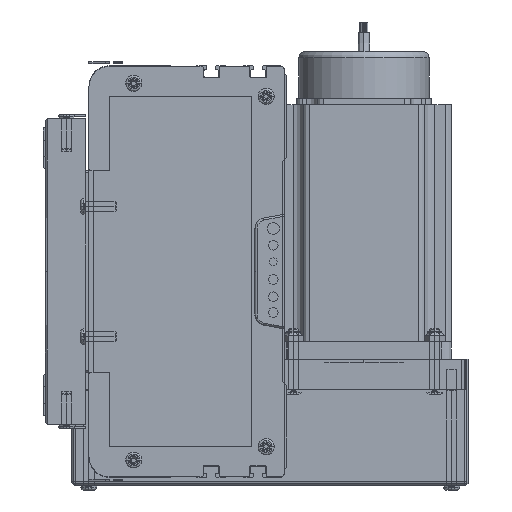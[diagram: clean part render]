
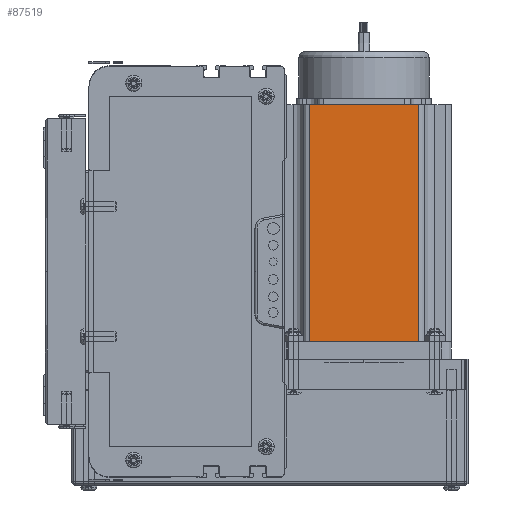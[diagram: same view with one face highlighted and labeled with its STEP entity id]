
A CAD part, left-side view. The second image highlights one B-rep face of the part: STEP entity #87519.
In plain terms, the highlighted planar face has unit normal (-1, 0, 0) as drawn and (0, -1, 0) by its records, which use the part's own axes.
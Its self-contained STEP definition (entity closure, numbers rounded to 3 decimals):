
#12764 = CARTESIAN_POINT ( 'NONE',  ( 69.74, 0., 116.5 ) ) ;
#13100 = CARTESIAN_POINT ( 'NONE',  ( 69.74, 0., 0. ) ) ;
#13101 = LINE ( 'NONE', #13123, #13122 ) ;
#13121 = DIRECTION ( 'NONE',  ( 0., 0., 1. ) ) ;
#13122 = VECTOR ( 'NONE', #13121, 1000. ) ;
#13123 = CARTESIAN_POINT ( 'NONE',  ( 69.74, 0., 116.5 ) ) ;
#13978 = VECTOR ( 'NONE', #13996, 1000. ) ;
#13990 = LINE ( 'NONE', #13997, #13978 ) ;
#13996 = DIRECTION ( 'NONE',  ( 1., 0., 0. ) ) ;
#13997 = CARTESIAN_POINT ( 'NONE',  ( 0., 0., 0. ) ) ;
#14181 = LINE ( 'NONE', #14193, #14192 ) ;
#14191 = DIRECTION ( 'NONE',  ( 1., 0., 0. ) ) ;
#14192 = VECTOR ( 'NONE', #14191, 1000. ) ;
#14193 = CARTESIAN_POINT ( 'NONE',  ( 0., 0., 116.5 ) ) ;
#14608 = CARTESIAN_POINT ( 'NONE',  ( 16.16, 0., 0. ) ) ;
#35536 = CARTESIAN_POINT ( 'NONE',  ( 16.16, 0., 116.5 ) ) ;
#87519 = ADVANCED_FACE ( 'NONE', ( #152086 ), #152099, .F. ) ;
#87538 = ORIENTED_EDGE ( 'NONE', *, *, #99681, .T. ) ;
#87704 = ORIENTED_EDGE ( 'NONE', *, *, #99413, .T. ) ;
#89782 = ORIENTED_EDGE ( 'NONE', *, *, #90055, .T. ) ;
#90055 = EDGE_CURVE ( 'NONE', #110107, #99846, #158064, .T. ) ;
#99394 = VERTEX_POINT ( 'NONE', #13100 ) ;
#99413 = EDGE_CURVE ( 'NONE', #99394, #99433, #13101, .T. ) ;
#99433 = VERTEX_POINT ( 'NONE', #12764 ) ;
#99641 = EDGE_LOOP ( 'NONE', ( #87538, #87704, #99682, #89782 ) ) ;
#99681 = EDGE_CURVE ( 'NONE', #99846, #99394, #13990, .T. ) ;
#99682 = ORIENTED_EDGE ( 'NONE', *, *, #99737, .F. ) ;
#99737 = EDGE_CURVE ( 'NONE', #110107, #99433, #14181, .T. ) ;
#99846 = VERTEX_POINT ( 'NONE', #14608 ) ;
#110107 = VERTEX_POINT ( 'NONE', #35536 ) ;
#152080 = DIRECTION ( 'NONE',  ( 0., 0., 1. ) ) ;
#152081 = DIRECTION ( 'NONE',  ( 0., 1., 0. ) ) ;
#152084 = AXIS2_PLACEMENT_3D ( 'NONE', #152094, #152081, #152080 ) ;
#152086 = FACE_OUTER_BOUND ( 'NONE', #99641, .T. ) ;
#152094 = CARTESIAN_POINT ( 'NONE',  ( 0., 0., 116.5 ) ) ;
#152099 = PLANE ( 'NONE',  #152084 ) ;
#158061 = DIRECTION ( 'NONE',  ( 0., 0., -1. ) ) ;
#158062 = VECTOR ( 'NONE', #158061, 1000. ) ;
#158063 = CARTESIAN_POINT ( 'NONE',  ( 16.16, 0., 116.5 ) ) ;
#158064 = LINE ( 'NONE', #158063, #158062 ) ;
